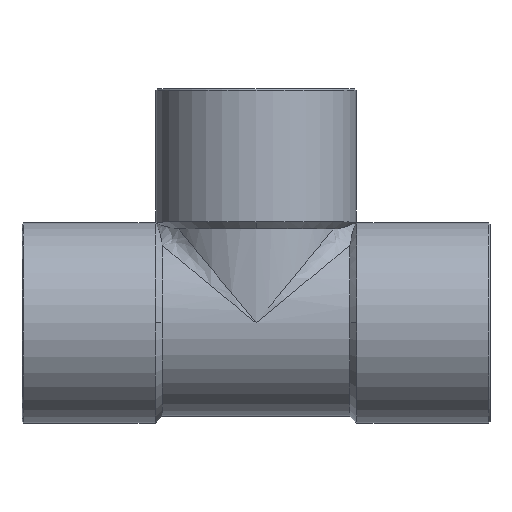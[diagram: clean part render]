
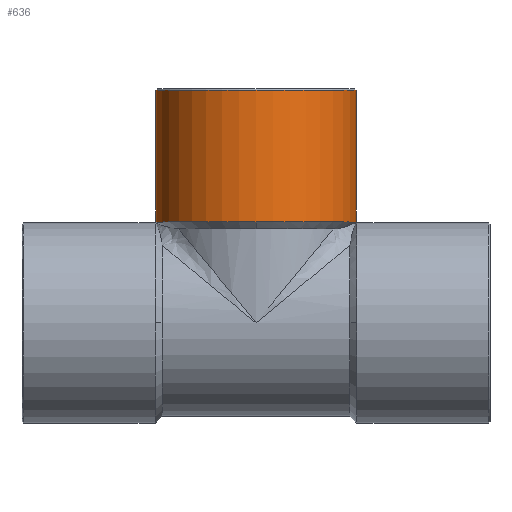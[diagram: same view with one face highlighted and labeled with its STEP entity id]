
A CAD part, top view. The second image highlights one B-rep face of the part: STEP entity #636.
In plain terms, the highlighted cylindrical face has radius 15.1 mm (diameter 30.2 mm), a partial arc.
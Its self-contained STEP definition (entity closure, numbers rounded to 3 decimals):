
#179=CARTESIAN_POINT('',(15.1,15.2,0.));
#180=VERTEX_POINT('',#179);
#188=CARTESIAN_POINT('',(0.,15.2,15.1));
#189=VERTEX_POINT('',#188);
#190=CARTESIAN_POINT('',(0.,15.2,0.0));
#191=DIRECTION('',(0.0,1.0,0.0));
#192=DIRECTION('',(-1.0,0.0,0.0));
#193=AXIS2_PLACEMENT_3D('',#190,#191,#192);
#194=CIRCLE('',#193,15.1);
#195=EDGE_CURVE('',#189,#180,#194,.T.);
#596=CARTESIAN_POINT('',(0.,25.225,0.0));
#597=DIRECTION('',(0.,1.0,0.0));
#598=DIRECTION('',(-1.0,0.0,0.0));
#599=AXIS2_PLACEMENT_3D('',#596,#597,#598);
#600=CYLINDRICAL_SURFACE('',#599,15.1);
#601=CARTESIAN_POINT('',(-15.1,15.2,0.0));
#602=VERTEX_POINT('',#601);
#603=CARTESIAN_POINT('',(-15.1,35.05,0.));
#604=VERTEX_POINT('',#603);
#605=CARTESIAN_POINT('',(-15.1,15.2,0.0));
#606=DIRECTION('',(0.0,1.0,0.0));
#607=VECTOR('',#606,19.85);
#608=LINE('',#605,#607);
#609=EDGE_CURVE('',#602,#604,#608,.T.);
#610=ORIENTED_EDGE('',*,*,#609,.F.);
#611=CARTESIAN_POINT('',(0.,15.2,0.0));
#612=DIRECTION('',(0.0,1.0,0.0));
#613=DIRECTION('',(-1.0,0.0,0.0));
#614=AXIS2_PLACEMENT_3D('',#611,#612,#613);
#615=CIRCLE('',#614,15.1);
#616=EDGE_CURVE('',#602,#189,#615,.T.);
#617=ORIENTED_EDGE('',*,*,#616,.T.);
#618=ORIENTED_EDGE('',*,*,#195,.T.);
#619=CARTESIAN_POINT('',(15.1,35.05,0.));
#620=VERTEX_POINT('',#619);
#621=CARTESIAN_POINT('',(15.1,35.05,0.));
#622=DIRECTION('',(0.0,-1.0,0.0));
#623=VECTOR('',#622,19.85);
#624=LINE('',#621,#623);
#625=EDGE_CURVE('',#620,#180,#624,.T.);
#626=ORIENTED_EDGE('',*,*,#625,.F.);
#627=CARTESIAN_POINT('',(0.,35.05,0.0));
#628=DIRECTION('',(0.0,1.0,0.0));
#629=DIRECTION('',(1.0,0.0,0.0));
#630=AXIS2_PLACEMENT_3D('',#627,#628,#629);
#631=CIRCLE('',#630,15.1);
#632=EDGE_CURVE('',#604,#620,#631,.T.);
#633=ORIENTED_EDGE('',*,*,#632,.F.);
#634=EDGE_LOOP('',(#610,#617,#618,#626,#633));
#635=FACE_OUTER_BOUND('',#634,.T.);
#636=ADVANCED_FACE('',(#635),#600,.T.);
